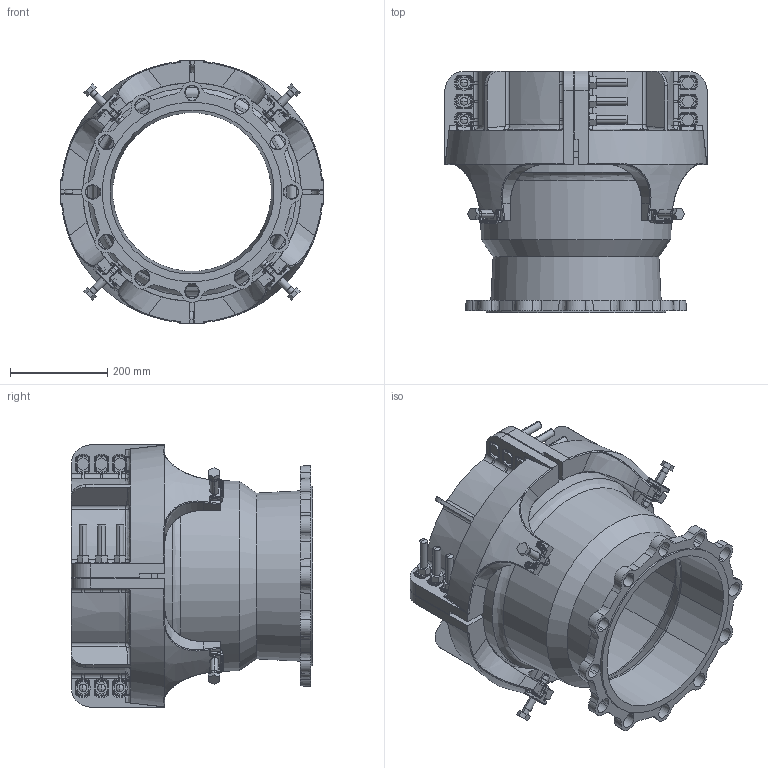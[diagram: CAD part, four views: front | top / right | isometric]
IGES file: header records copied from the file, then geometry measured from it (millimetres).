
Start section:  PTC IGES file: 355x300.igs
Global section: file name: 355x300.igs; native system: Pro/ENGINEER by Parametric Technology Corporation; preprocessor: 2006020; author: mfairey; organization: Unknown; date: 170508.150723; units: millimetre
Bounding box: 539.91 x 497 x 539.91 mm (x, y, z)
Surface area: 2576551.5 mm2 (no closed solid volume)
Topology: 0 solids, 0 shells, 2041 faces, 9944 edges, 9912 vertices
Faces by surface type: revolution 1214, bspline 827
